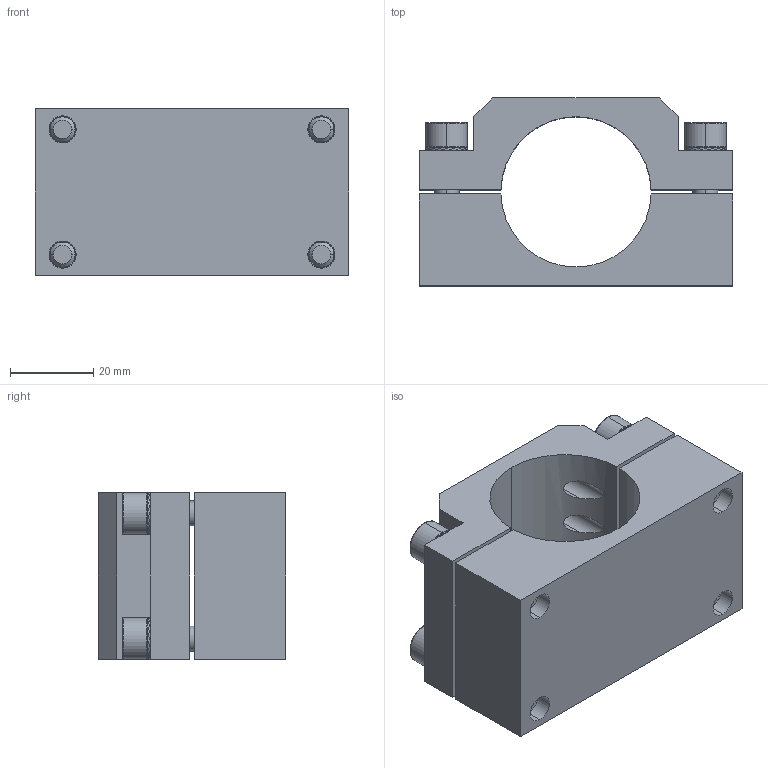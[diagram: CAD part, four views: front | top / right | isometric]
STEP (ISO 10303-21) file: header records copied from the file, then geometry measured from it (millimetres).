
FILE_DESCRIPTION (( 'STEP AP214' ), '1' );
FILE_NAME ('SCE3-N10T.STEP', '2023-01-13T09:24:31', ( 'Windows User' ), ( 'P R C' ), 'SwSTEP 2.0', 'SolidWorks 2019', '' );
FILE_SCHEMA (( 'AUTOMOTIVE_DESIGN' ));
Length unit declared in the file: millimetre
Products named in the file (1): SCE3-N10T
Bounding box: 75 x 45 x 40 mm (x, y, z)
Volume: 78762.9 mm3; surface area: 27876.6 mm2
Topology: 10 solids, 10 shells, 719 faces, 2081 edges, 1382 vertices
Faces by surface type: plane 636, cylinder 59, cone 16, bspline 8
Entity records: 32261 total; most frequent: CARTESIAN_POINT 4615, DIRECTION 4191, ORIENTED_EDGE 4162, EDGE_CURVE 2081, AXIS2_PLACEMENT_3D 1422, VERTEX_POINT 1382, VECTOR 1347, LINE 1347
